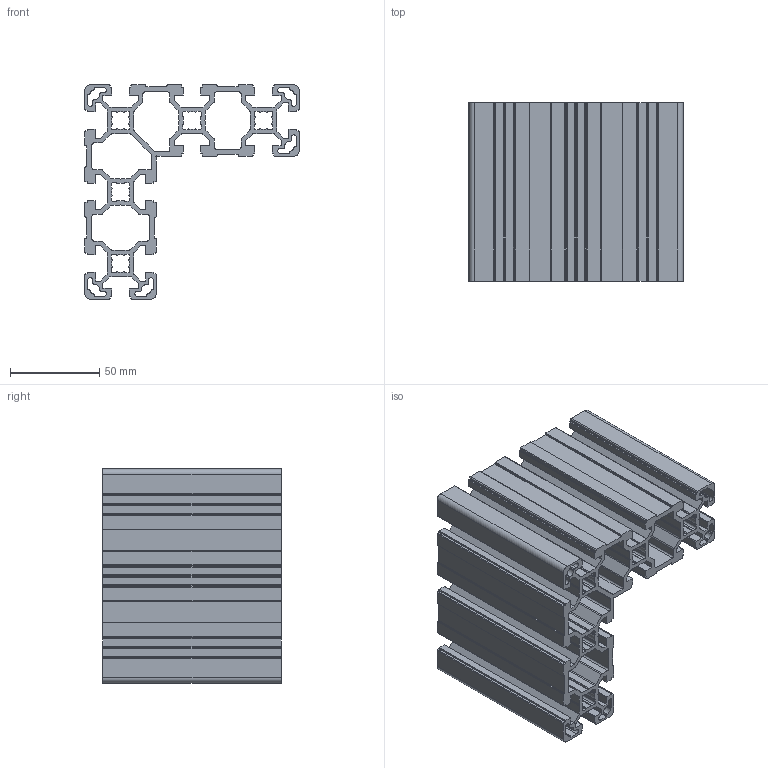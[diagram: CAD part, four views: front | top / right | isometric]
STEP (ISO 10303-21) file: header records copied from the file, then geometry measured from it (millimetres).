
FILE_DESCRIPTION( ( 'Unknown' ), '1' );
FILE_NAME( 'C:/Aktuell/B10-40120120L/B10-40120120L.stp', 'Unknown', ( 'Unknown' ), ( 'Unknown' ), 'XStep 1.0', 'Unknown', ' ' );
FILE_SCHEMA( ( 'automotive_design' ) );
Length unit declared in the file: millimetre
Products named in the file (1): 1
Bounding box: 120 x 100 x 120 mm (x, y, z)
Volume: 246363.3 mm3; surface area: 180005.9 mm2
Topology: 1 solids, 1 shells, 878 faces, 2628 edges, 1752 vertices
Faces by surface type: cylinder 452, plane 426
Entity records: 36932 total; most frequent: DIRECTION 5290, CARTESIAN_POINT 5259, ORIENTED_EDGE 5256, EDGE_CURVE 2628, AXIS2_PLACEMENT_3D 1783, VERTEX_POINT 1752, LINE 1724, VECTOR 1724
